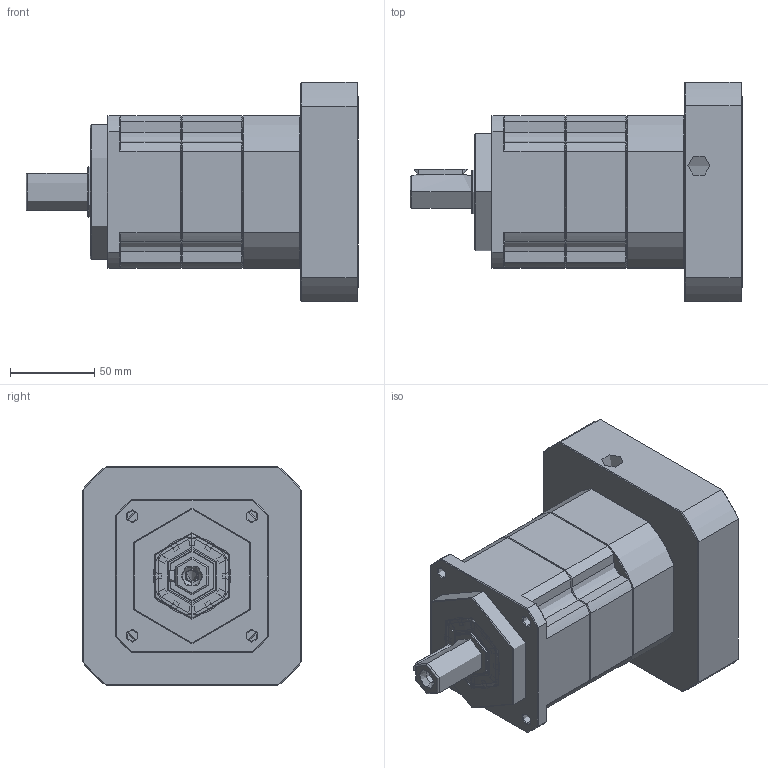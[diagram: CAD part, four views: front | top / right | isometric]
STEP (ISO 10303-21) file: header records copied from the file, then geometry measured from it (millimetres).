
FILE_DESCRIPTION (( 'STEP AP214' ), '1' );
FILE_NAME ('ZPB090-D22-L2-P1-24-110-130-M8.step', '2024-06-07T18:21:37', ( 'Windows 蚚誧' ), ( 'Organization' ), 'SwSTEP 2.0', 'SolidWorks 2016', '' );
FILE_SCHEMA (( 'AUTOMOTIVE_DESIGN' ));
Length unit declared in the file: millimetre
Products named in the file (1): ZPB090-D22-L2-P1-24-110-130-M8
Bounding box: 196.5 x 130 x 130 mm (x, y, z)
Topology: 0 solids, 37 shells, 1887 faces, 4983 edges, 3161 vertices
Faces by surface type: plane 969, bspline 389, cone 291, cylinder 236, torus 2
Full cylindrical faces by diameter (mm): 6.72 x1
Entity records: 96384 total; most frequent: CARTESIAN_POINT 48002, ORIENTED_EDGE 9917, DIRECTION 7699, EDGE_CURVE 4979, LINE 3273, VECTOR 3273, VERTEX_POINT 3159, AXIS2_PLACEMENT_3D 2213
